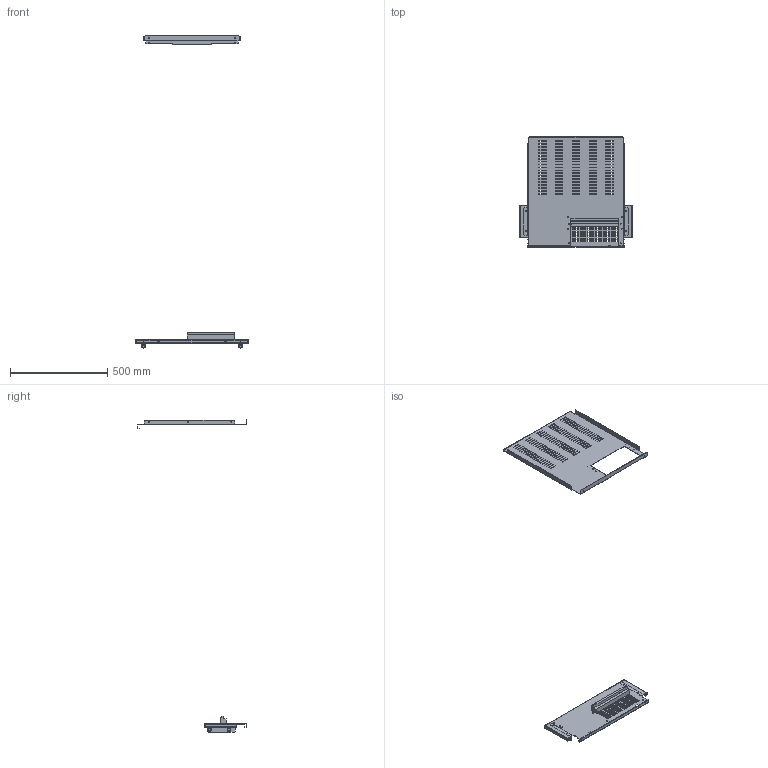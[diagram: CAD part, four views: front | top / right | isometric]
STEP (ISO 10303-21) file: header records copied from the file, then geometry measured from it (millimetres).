
FILE_DESCRIPTION(('CAx-IF Rec.Pracs.---Model Styling and Organization---1.2---2011-12-15','CAx-IF Rec.Pracs.---Geometric and Assembly Validation Properties---4.1---2014-06-16','CAx-IF Rec.Pracs.---PMI Polyline Presentation---2.0---2013-05-24'),'2;1');
FILE_NAME('R5M2UBFS6 (2000x600x600).stp','2021-05-05T12:07:36+03:00',(''),(''),'STEP Interface 4.4 by CT CoreTechnologie','3D_Evolution4.4 by CT CoreTechnologie','');
FILE_SCHEMA(('AUTOMOTIVE_DESIGN { 1 0 10303 214 1 1 1 1 }'));
Length unit declared in the file: millimetre
Products named in the file (8): R5M2UBFS6; M8-DIN 6923 (CM100800)_thread; RB.0876.00.00.0_-00; M8x16-DIN 6921_thread; RB.0837.00.00.0_-00; RB.0837.00.00.0_-01; RB.0792.00.00.0_-00; RB.0877.00.00.0_-00
Assembly tree (13 placements, depth 2):
  R5M2UBFS6
    M8-DIN 6923 (CM100800)_thread  x4
    RB.0876.00.00.0_-00
    M8x16-DIN 6921_thread  x4
    RB.0837.00.00.0_-00
    RB.0837.00.00.0_-01
    RB.0792.00.00.0_-00
    RB.0877.00.00.0_-00
Bounding box: 580 x 565.5 x 1607 mm (x, y, z)
Surface area: 945659.2 mm2 (no closed solid volume)
Topology: 0 solids, 13 shells, 1219 faces, 3226 edges, 2029 vertices
Faces by surface type: plane 783, bspline 264, cylinder 172
Entity records: 31991 total; most frequent: CARTESIAN_POINT 6780, ORIENTED_EDGE 5264, DIRECTION 4640, EDGE_CURVE 2632, VECTOR 2262, LINE 2262, VERTEX_POINT 1705, EDGE_LOOP 1293
